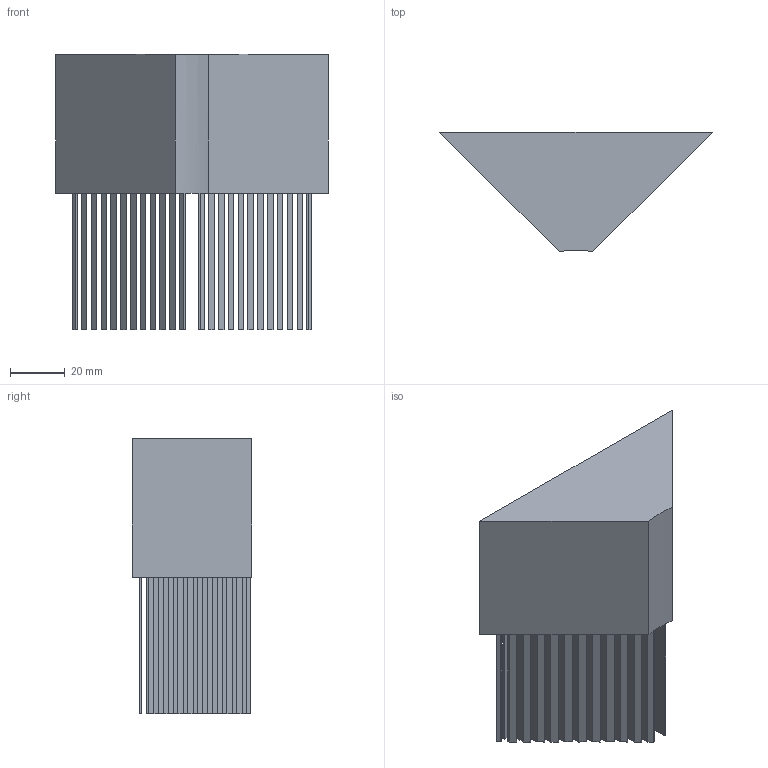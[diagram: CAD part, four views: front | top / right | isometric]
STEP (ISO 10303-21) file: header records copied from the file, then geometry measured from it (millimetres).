
FILE_DESCRIPTION(/* description */ ('STEP AP214','CAx-IF Rec.Pracs.---User Defined Attributes---1.5---2016-08-15'),/* implementation_level */ '2;1');
FILE_NAME(/* name */ '6ae31eddf048ba5c842f5d0a',/* time_stamp */ '2026-10-29T10:24:30Z',/* author */ (''),/* organization */ (''),/* preprocessor_version */ 'ST-DEVELOPER v20',/* originating_system */ 'ONSHAPE BY PTC INC, 1.222',/* authorisation */ ' ');
FILE_SCHEMA (('AUTOMOTIVE_DESIGN {1 0 10303 214 3 1 1}'));
Length unit declared in the file: metre
Products named in the file (1): Part 1
Bounding box: 100 x 43.8 x 101 mm (x, y, z)
Volume: 171224.7 mm3; surface area: 72904.8 mm2
Topology: 1 solids, 1 shells, 236 faces, 570 edges, 380 vertices
Faces by surface type: plane 235, cylinder 1
Entity records: 6770 total; most frequent: CARTESIAN_POINT 1187, ORIENTED_EDGE 1140, DIRECTION 1050, EDGE_CURVE 570, LINE 564, VECTOR 564, VERTEX_POINT 380, EDGE_LOOP 280
